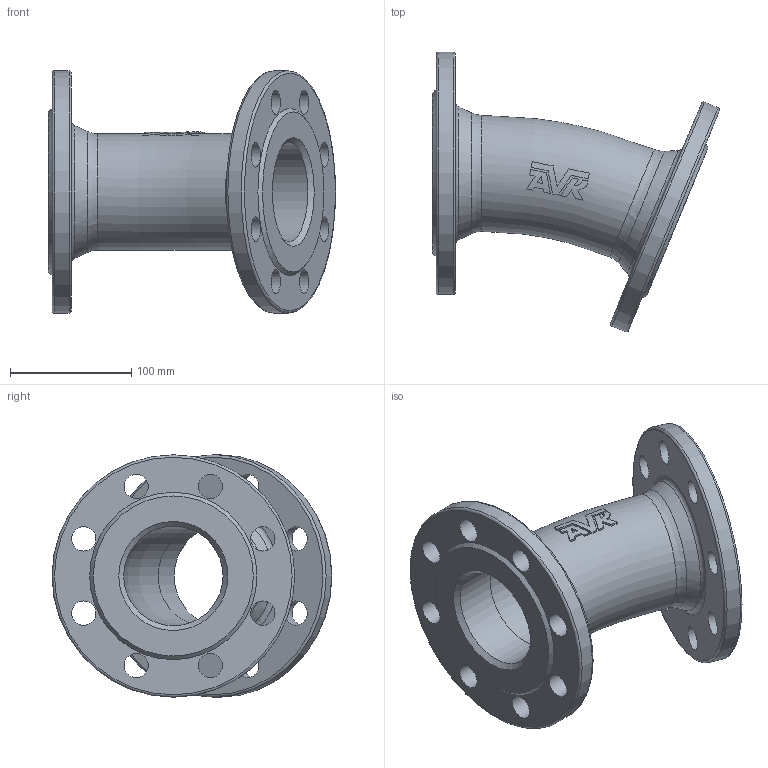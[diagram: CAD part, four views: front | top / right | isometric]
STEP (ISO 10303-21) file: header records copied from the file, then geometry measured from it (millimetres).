
FILE_DESCRIPTION (( 'STEP AP203' ), '1' );
FILE_NAME ('O_712_0210_DN80_1X_REV01.step', '2024-08-15T12:00:19', ( '' ), ( '' ), 'SwSTEP 2.0', 'SolidWorks 2022', '' );
FILE_SCHEMA (( 'CONFIG_CONTROL_DESIGN' ));
Length unit declared in the file: millimetre
Products named in the file (1): O_712_0210_DN80_1X_REV01
Bounding box: 236.89 x 230.81 x 200 mm (x, y, z)
Volume: 1183787.7 mm3; surface area: 226247 mm2
Topology: 1 solids, 1 shells, 83 faces, 226 edges, 153 vertices
Faces by surface type: plane 41, cylinder 22, torus 12, cone 6, bspline 2
Full cylindrical faces by diameter (mm): 20 x16, 82 x2, 200 x2
Entity records: 3890 total; most frequent: CARTESIAN_POINT 2033, ORIENTED_EDGE 338, DIRECTION 309, EDGE_CURVE 169, EDGE_LOOP 161, AXIS2_PLACEMENT_3D 136, VERTEX_POINT 132, FACE_OUTER_BOUND 113
